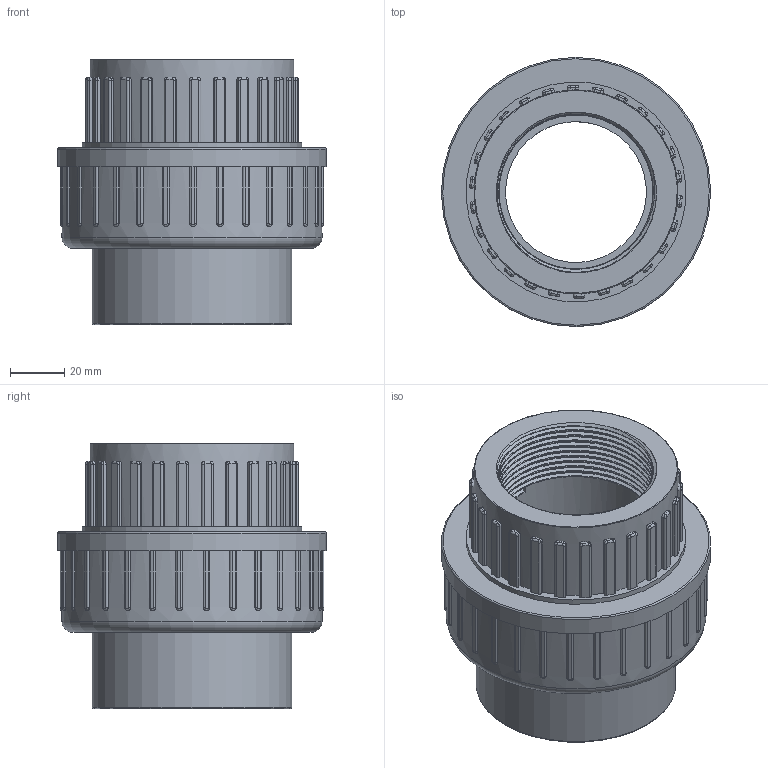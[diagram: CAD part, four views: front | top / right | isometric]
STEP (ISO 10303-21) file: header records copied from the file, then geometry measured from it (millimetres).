
FILE_DESCRIPTION(/* description */ (''),/* implementation_level */ '2;1');
FILE_NAME(/* name */ 'C:\Users\POLYPIPE\Desktop\DATASET INVENTOR\LIBRERIA EFFAST\3D_RACCORDI\RGR\3D_RGRBOG\3D_RGRBOG063G.stp',/* time_stamp */ '2018-01-22T14:34:33+01:00',/* author */ ('POLYPIPE'),/* organization */ (''),/* preprocessor_version */ 'ST-DEVELOPER v16.1',/* originating_system */ 'Autodesk Inventor 2016',/* authorisation */ '');
FILE_SCHEMA (('CONFIG_CONTROL_DESIGN'));
Length unit declared in the file: centimetre
Products named in the file (1): 3D_RGRBOG
Bounding box: 99 x 99 x 97.5 mm (x, y, z)
Volume: 269706.4 mm3; surface area: 65858.2 mm2
Topology: 1 solids, 2 shells, 531 faces, 1419 edges, 900 vertices
Faces by surface type: cylinder 232, plane 207, bspline 87, torus 4, cone 1
Full cylindrical faces by diameter (mm): 51.8 x1, 53 x1, 56.656 x1, 63 x1, 73.5 x1, 74.3 x1, 75 x1, 79 x1, 79.3 x1, 80.9 x1, 95.7 x1, 99 x1
Entity records: 22550 total; most frequent: CARTESIAN_POINT 8958, ORIENTED_EDGE 2798, DIRECTION 2715, EDGE_CURVE 1399, AXIS2_PLACEMENT_3D 996, VERTEX_POINT 896, LINE 723, VECTOR 723
